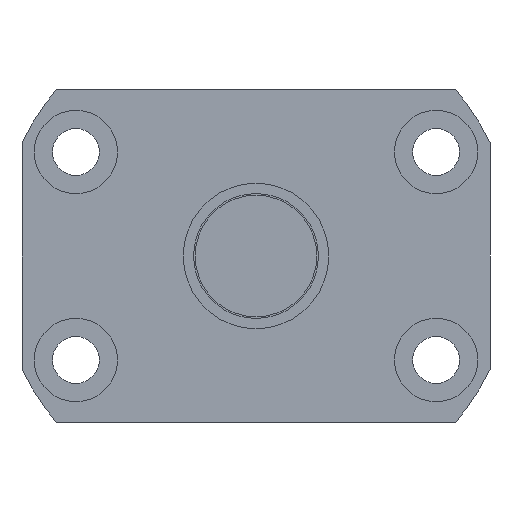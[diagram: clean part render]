
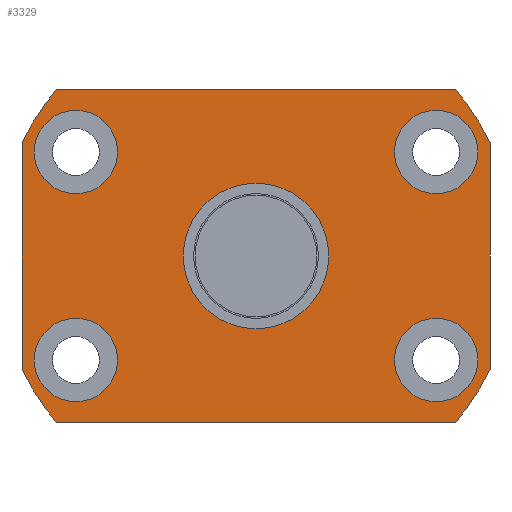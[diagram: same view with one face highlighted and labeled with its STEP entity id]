
A CAD part, left-side view. The second image highlights one B-rep face of the part: STEP entity #3329.
In plain terms, the highlighted planar face has unit normal (-1, 0, 0).
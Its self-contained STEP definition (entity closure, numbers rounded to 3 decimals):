
#479=CARTESIAN_POINT('',(137.202,21.321,-10.));
#480=VERTEX_POINT('',#479);
#481=CARTESIAN_POINT('',(137.202,17.321,-10.));
#482=DIRECTION('',(1.0,0.0,0.0));
#483=DIRECTION('',(0.0,1.0,0.0));
#484=AXIS2_PLACEMENT_3D('',#481,#482,#483);
#485=CIRCLE('',#484,4.0);
#486=EDGE_CURVE('',#480,#480,#485,.T.);
#547=CARTESIAN_POINT('',(137.202,-13.321,10.));
#548=VERTEX_POINT('',#547);
#549=CARTESIAN_POINT('',(137.202,-17.321,10.));
#550=DIRECTION('',(1.0,0.0,0.0));
#551=DIRECTION('',(0.0,1.0,0.0));
#552=AXIS2_PLACEMENT_3D('',#549,#550,#551);
#553=CIRCLE('',#552,4.0);
#554=EDGE_CURVE('',#548,#548,#553,.T.);
#615=CARTESIAN_POINT('',(137.202,21.321,10.));
#616=VERTEX_POINT('',#615);
#617=CARTESIAN_POINT('',(137.202,17.321,10.));
#618=DIRECTION('',(1.0,0.0,0.0));
#619=DIRECTION('',(0.0,1.0,0.0));
#620=AXIS2_PLACEMENT_3D('',#617,#618,#619);
#621=CIRCLE('',#620,4.0);
#622=EDGE_CURVE('',#616,#616,#621,.T.);
#683=CARTESIAN_POINT('',(137.202,-13.321,-10.));
#684=VERTEX_POINT('',#683);
#685=CARTESIAN_POINT('',(137.202,-17.321,-10.));
#686=DIRECTION('',(1.0,0.0,0.0));
#687=DIRECTION('',(0.0,1.0,0.0));
#688=AXIS2_PLACEMENT_3D('',#685,#686,#687);
#689=CIRCLE('',#688,4.0);
#690=EDGE_CURVE('',#684,#684,#689,.T.);
#3031=CARTESIAN_POINT('',(137.202,-19.209,16.));
#3032=VERTEX_POINT('',#3031);
#3039=CARTESIAN_POINT('',(137.202,-22.5,10.897));
#3040=VERTEX_POINT('',#3039);
#3041=CARTESIAN_POINT('',(137.202,0.,0.0));
#3042=DIRECTION('',(1.0,0.0,0.0));
#3043=DIRECTION('',(0.0,1.0,0.0));
#3044=AXIS2_PLACEMENT_3D('',#3041,#3042,#3043);
#3045=CIRCLE('',#3044,25.0);
#3046=EDGE_CURVE('',#3032,#3040,#3045,.T.);
#3063=CARTESIAN_POINT('',(137.202,19.209,16.));
#3064=VERTEX_POINT('',#3063);
#3071=CARTESIAN_POINT('',(137.202,19.209,16.));
#3072=DIRECTION('',(0.0,-1.0,0.0));
#3073=VECTOR('',#3072,38.419);
#3074=LINE('',#3071,#3073);
#3075=EDGE_CURVE('',#3064,#3032,#3074,.T.);
#3087=CARTESIAN_POINT('',(137.202,22.5,10.897));
#3088=VERTEX_POINT('',#3087);
#3095=CARTESIAN_POINT('',(137.202,0.,0.0));
#3096=DIRECTION('',(1.0,0.0,0.0));
#3097=DIRECTION('',(0.0,1.0,0.0));
#3098=AXIS2_PLACEMENT_3D('',#3095,#3096,#3097);
#3099=CIRCLE('',#3098,25.0);
#3100=EDGE_CURVE('',#3088,#3064,#3099,.T.);
#3112=CARTESIAN_POINT('',(137.202,22.5,-10.897));
#3113=VERTEX_POINT('',#3112);
#3120=CARTESIAN_POINT('',(137.202,22.5,-10.897));
#3121=DIRECTION('',(0.0,0.0,1.0));
#3122=VECTOR('',#3121,21.794);
#3123=LINE('',#3120,#3122);
#3124=EDGE_CURVE('',#3113,#3088,#3123,.T.);
#3136=CARTESIAN_POINT('',(137.202,19.209,-16.));
#3137=VERTEX_POINT('',#3136);
#3144=CARTESIAN_POINT('',(137.202,0.,0.0));
#3145=DIRECTION('',(1.0,0.0,0.0));
#3146=DIRECTION('',(0.0,1.0,0.0));
#3147=AXIS2_PLACEMENT_3D('',#3144,#3145,#3146);
#3148=CIRCLE('',#3147,25.0);
#3149=EDGE_CURVE('',#3137,#3113,#3148,.T.);
#3161=CARTESIAN_POINT('',(137.202,-19.209,-16.));
#3162=VERTEX_POINT('',#3161);
#3169=CARTESIAN_POINT('',(137.202,-19.209,-16.));
#3170=DIRECTION('',(0.0,1.0,0.0));
#3171=VECTOR('',#3170,38.419);
#3172=LINE('',#3169,#3171);
#3173=EDGE_CURVE('',#3162,#3137,#3172,.T.);
#3185=CARTESIAN_POINT('',(137.202,-22.5,-10.897));
#3186=VERTEX_POINT('',#3185);
#3193=CARTESIAN_POINT('',(137.202,0.,0.0));
#3194=DIRECTION('',(1.0,0.0,0.0));
#3195=DIRECTION('',(0.0,1.0,0.0));
#3196=AXIS2_PLACEMENT_3D('',#3193,#3194,#3195);
#3197=CIRCLE('',#3196,25.0);
#3198=EDGE_CURVE('',#3186,#3162,#3197,.T.);
#3211=CARTESIAN_POINT('',(137.202,-22.5,10.897));
#3212=DIRECTION('',(0.0,0.0,-1.0));
#3213=VECTOR('',#3212,21.794);
#3214=LINE('',#3211,#3213);
#3215=EDGE_CURVE('',#3040,#3186,#3214,.T.);
#3226=CARTESIAN_POINT('',(137.202,7.,0.0));
#3227=VERTEX_POINT('',#3226);
#3228=CARTESIAN_POINT('',(137.202,0.,0.0));
#3229=DIRECTION('',(1.0,0.0,0.0));
#3230=DIRECTION('',(0.0,1.0,0.0));
#3231=AXIS2_PLACEMENT_3D('',#3228,#3229,#3230);
#3232=CIRCLE('',#3231,7.);
#3233=EDGE_CURVE('',#3227,#3227,#3232,.T.);
#3299=CARTESIAN_POINT('',(137.202,11.,0.0));
#3300=DIRECTION('',(-1.0,0.0,0.0));
#3301=DIRECTION('',(0.0,0.0,1.0));
#3302=AXIS2_PLACEMENT_3D('',#3299,#3300,#3301);
#3303=PLANE('',#3302);
#3304=ORIENTED_EDGE('',*,*,#3124,.F.);
#3305=ORIENTED_EDGE('',*,*,#3149,.F.);
#3306=ORIENTED_EDGE('',*,*,#3173,.F.);
#3307=ORIENTED_EDGE('',*,*,#3198,.F.);
#3308=ORIENTED_EDGE('',*,*,#3215,.F.);
#3309=ORIENTED_EDGE('',*,*,#3046,.F.);
#3310=ORIENTED_EDGE('',*,*,#3075,.F.);
#3311=ORIENTED_EDGE('',*,*,#3100,.F.);
#3312=EDGE_LOOP('',(#3304,#3305,#3306,#3307,#3308,#3309,#3310,#3311));
#3313=FACE_OUTER_BOUND('',#3312,.T.);
#3314=ORIENTED_EDGE('',*,*,#486,.T.);
#3315=EDGE_LOOP('',(#3314));
#3316=FACE_BOUND('',#3315,.T.);
#3317=ORIENTED_EDGE('',*,*,#554,.T.);
#3318=EDGE_LOOP('',(#3317));
#3319=FACE_BOUND('',#3318,.T.);
#3320=ORIENTED_EDGE('',*,*,#622,.T.);
#3321=EDGE_LOOP('',(#3320));
#3322=FACE_BOUND('',#3321,.T.);
#3323=ORIENTED_EDGE('',*,*,#690,.T.);
#3324=EDGE_LOOP('',(#3323));
#3325=FACE_BOUND('',#3324,.T.);
#3326=ORIENTED_EDGE('',*,*,#3233,.T.);
#3327=EDGE_LOOP('',(#3326));
#3328=FACE_BOUND('',#3327,.T.);
#3329=ADVANCED_FACE('',(#3313,#3316,#3319,#3322,#3325,#3328),#3303,.T.);
